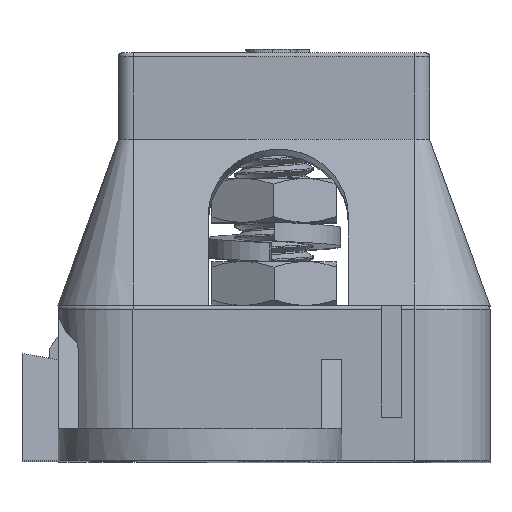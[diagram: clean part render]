
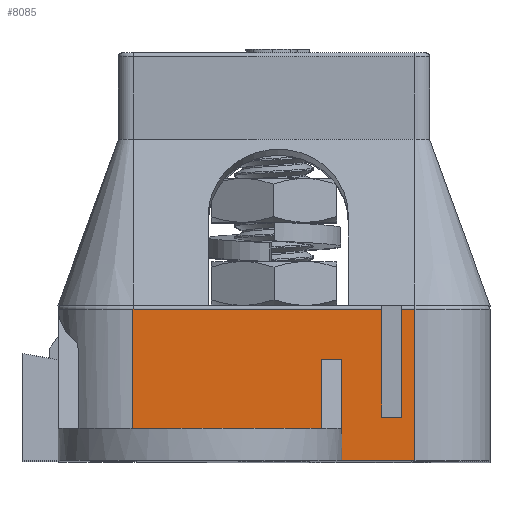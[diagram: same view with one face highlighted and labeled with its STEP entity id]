
A CAD part, top view. The second image highlights one B-rep face of the part: STEP entity #8085.
In plain terms, the highlighted planar face has unit normal (0, 0, 1).
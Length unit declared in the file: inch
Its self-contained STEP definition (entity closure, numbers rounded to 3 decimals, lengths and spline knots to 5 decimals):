
#911=FACE_OUTER_BOUND('',#1371,.T.);
#1371=EDGE_LOOP('',(#5686,#5687,#5688,#5689,#5690,#5691,#5692,#5693,#5694,
#5695,#5696,#5697));
#1813=LINE('',#10970,#2605);
#1961=LINE('',#11318,#2753);
#1964=LINE('',#11327,#2756);
#1966=LINE('',#11330,#2758);
#1967=LINE('',#11334,#2759);
#1968=LINE('',#11337,#2760);
#1969=LINE('',#11341,#2761);
#1970=LINE('',#11343,#2762);
#1971=LINE('',#11345,#2763);
#1972=LINE('',#11347,#2764);
#1973=LINE('',#11348,#2765);
#1974=LINE('',#11349,#2766);
#2605=VECTOR('',#9143,0.3937);
#2753=VECTOR('',#9405,0.3937);
#2756=VECTOR('',#9414,0.3937);
#2758=VECTOR('',#9418,0.3937);
#2759=VECTOR('',#9423,0.3937);
#2760=VECTOR('',#9426,0.3937);
#2761=VECTOR('',#9431,0.3937);
#2762=VECTOR('',#9432,0.3937);
#2763=VECTOR('',#9433,0.3937);
#2764=VECTOR('',#9434,0.3937);
#2765=VECTOR('',#9435,0.3937);
#2766=VECTOR('',#9436,0.3937);
#3391=VERTEX_POINT('',#10967);
#3392=VERTEX_POINT('',#10969);
#3533=VERTEX_POINT('',#11312);
#3535=VERTEX_POINT('',#11316);
#3537=VERTEX_POINT('',#11324);
#3538=VERTEX_POINT('',#11326);
#3539=VERTEX_POINT('',#11332);
#3540=VERTEX_POINT('',#11336);
#3541=VERTEX_POINT('',#11340);
#3542=VERTEX_POINT('',#11342);
#3543=VERTEX_POINT('',#11344);
#3544=VERTEX_POINT('',#11346);
#4189=EDGE_CURVE('',#3392,#3391,#1813,.T.);
#4364=EDGE_CURVE('',#3533,#3535,#1961,.T.);
#4368=EDGE_CURVE('',#3538,#3537,#1964,.T.);
#4370=EDGE_CURVE('',#3535,#3538,#1966,.T.);
#4372=EDGE_CURVE('',#3539,#3537,#1967,.T.);
#4373=EDGE_CURVE('',#3533,#3540,#1968,.T.);
#4375=EDGE_CURVE('',#3541,#3539,#1969,.T.);
#4376=EDGE_CURVE('',#3541,#3542,#1970,.T.);
#4377=EDGE_CURVE('',#3542,#3543,#1971,.T.);
#4378=EDGE_CURVE('',#3543,#3544,#1972,.T.);
#4379=EDGE_CURVE('',#3544,#3392,#1973,.T.);
#4380=EDGE_CURVE('',#3540,#3391,#1974,.T.);
#5686=ORIENTED_EDGE('',*,*,#4364,.T.);
#5687=ORIENTED_EDGE('',*,*,#4370,.T.);
#5688=ORIENTED_EDGE('',*,*,#4368,.T.);
#5689=ORIENTED_EDGE('',*,*,#4372,.F.);
#5690=ORIENTED_EDGE('',*,*,#4375,.F.);
#5691=ORIENTED_EDGE('',*,*,#4376,.T.);
#5692=ORIENTED_EDGE('',*,*,#4377,.T.);
#5693=ORIENTED_EDGE('',*,*,#4378,.T.);
#5694=ORIENTED_EDGE('',*,*,#4379,.T.);
#5695=ORIENTED_EDGE('',*,*,#4189,.T.);
#5696=ORIENTED_EDGE('',*,*,#4380,.F.);
#5697=ORIENTED_EDGE('',*,*,#4373,.F.);
#7841=PLANE('',#8659);
#8085=ADVANCED_FACE('',(#911),#7841,.T.);
#8659=AXIS2_PLACEMENT_3D('',#11339,#9429,#9430);
#9143=DIRECTION('',(1.,0.,0.));
#9405=DIRECTION('',(0.,-1.,0.));
#9414=DIRECTION('',(0.,1.,0.));
#9418=DIRECTION('',(-1.,0.,0.));
#9423=DIRECTION('',(1.,0.,0.));
#9426=DIRECTION('',(1.,0.,0.));
#9429=DIRECTION('center_axis',(0.,0.,1.));
#9430=DIRECTION('ref_axis',(1.,0.,0.));
#9431=DIRECTION('',(0.,1.,0.));
#9432=DIRECTION('',(1.,0.,0.));
#9433=DIRECTION('',(0.,1.,0.));
#9434=DIRECTION('',(1.,0.,0.));
#9435=DIRECTION('',(0.,-1.,0.));
#9436=DIRECTION('',(0.,-1.,0.));
#10967=CARTESIAN_POINT('',(0.3525,0.,1.04));
#10969=CARTESIAN_POINT('',(0.16906,0.,1.04));
#10970=CARTESIAN_POINT('',(-0.54,0.,1.04));
#11312=CARTESIAN_POINT('',(0.31906,0.379,1.04));
#11316=CARTESIAN_POINT('',(0.31906,0.109,1.04));
#11318=CARTESIAN_POINT('',(0.31906,0.1945,1.04));
#11324=CARTESIAN_POINT('',(0.26906,0.379,1.04));
#11326=CARTESIAN_POINT('',(0.26906,0.109,1.04));
#11327=CARTESIAN_POINT('',(0.26906,0.1945,1.04));
#11330=CARTESIAN_POINT('',(-0.12297,0.109,1.04));
#11332=CARTESIAN_POINT('',(-0.3525,0.379,1.04));
#11334=CARTESIAN_POINT('',(-0.27,0.379,1.04));
#11336=CARTESIAN_POINT('',(0.3525,0.379,1.04));
#11337=CARTESIAN_POINT('',(-0.27,0.379,1.04));
#11339=CARTESIAN_POINT('Origin',(-0.54,0.,1.04));
#11340=CARTESIAN_POINT('',(-0.3525,0.08,1.04));
#11341=CARTESIAN_POINT('',(-0.3525,0.,1.04));
#11342=CARTESIAN_POINT('',(0.11906,0.08,1.04));
#11343=CARTESIAN_POINT('',(-0.36319,0.08,1.04));
#11344=CARTESIAN_POINT('',(0.11906,0.25372,1.04));
#11345=CARTESIAN_POINT('',(0.11906,0.08871,1.04));
#11346=CARTESIAN_POINT('',(0.16906,0.25372,1.04));
#11347=CARTESIAN_POINT('',(-0.18547,0.25372,1.04));
#11348=CARTESIAN_POINT('',(0.16906,0.,1.04));
#11349=CARTESIAN_POINT('',(0.3525,0.,1.04));
